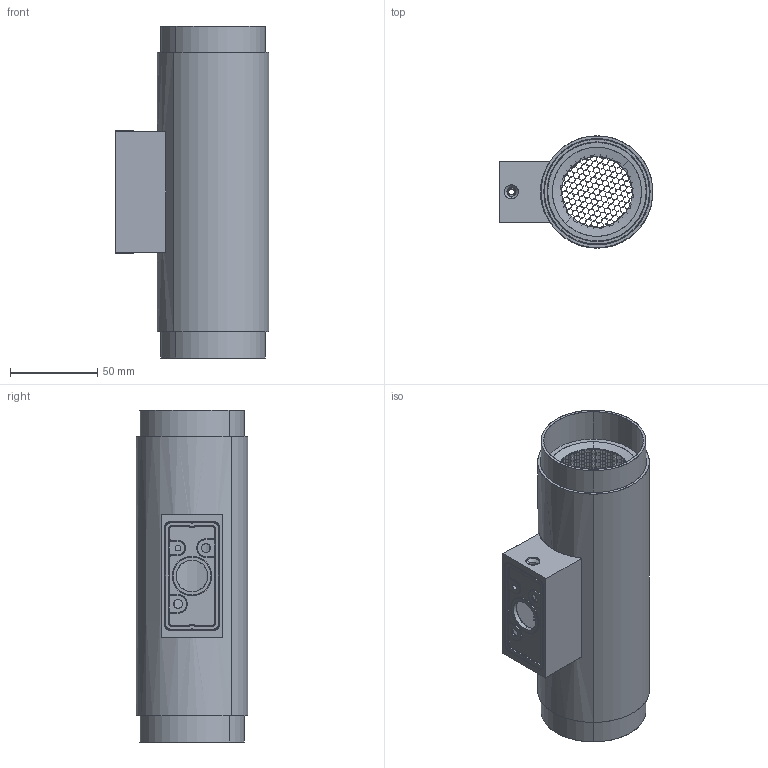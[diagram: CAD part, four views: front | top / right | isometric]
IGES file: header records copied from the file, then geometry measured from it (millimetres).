
Start section: SolidWorks IGES file using analytic representation for surfaces
Global section: file name: C:\Users\extension46\Desktop\3D-WEB\Lux\Lux3.IGS; native system: SolidWorks 2023; preprocessor: SolidWorks 2023; author: y.wang; date: 240627.093907; units: millimetre
Bounding box: 88 x 64 x 190 mm (x, y, z)
Surface area: 78881.8 mm2 (no closed solid volume)
Topology: 0 solids, 0 shells, 1288 faces, 9218 edges, 9208 vertices
Faces by surface type: bspline 1141, revolution 147
